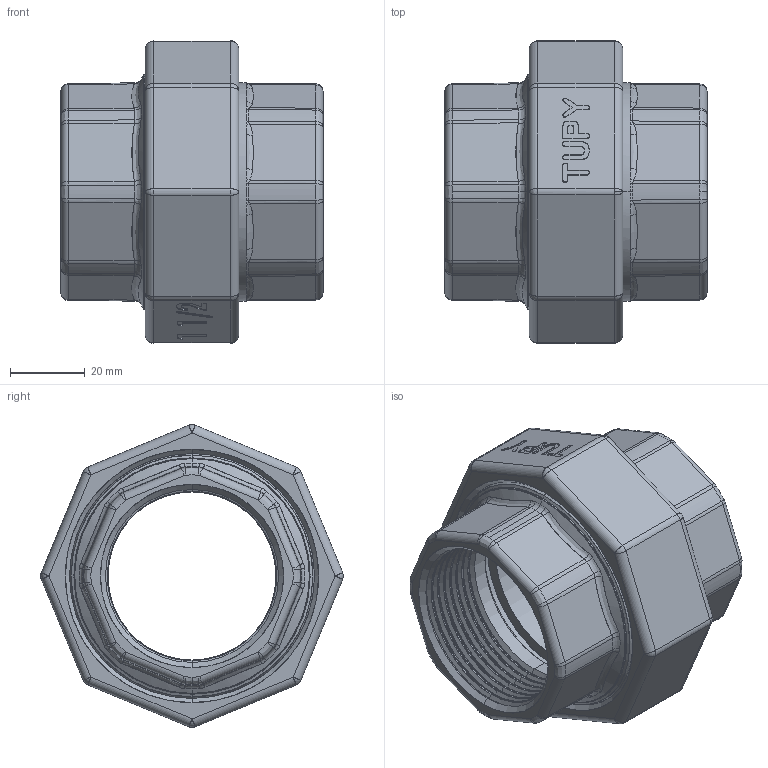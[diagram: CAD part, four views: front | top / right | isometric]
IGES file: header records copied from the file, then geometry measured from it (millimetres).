
Start section: SolidWorks IGES file using analytic representation for surfaces
Global section: file name: C:\Users\Joel Rosa\Desktop\Tubulação\12-62-X\12-62-009.IGS; native system: SolidWorks 2011; preprocessor: SolidWorks 2011; author: Joel Rosa; date: 130721.131742; units: millimetre
Bounding box: 70 x 80.8 x 80.81 mm (x, y, z)
Surface area: 51502.6 mm2 (no closed solid volume)
Topology: 0 solids, 0 shells, 682 faces, 5012 edges, 5006 vertices
Faces by surface type: bspline 457, revolution 225
